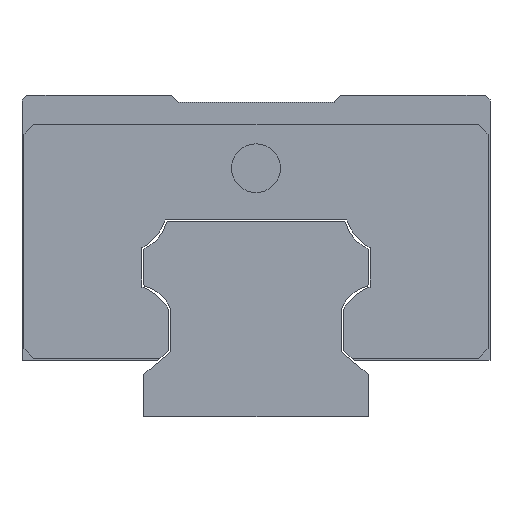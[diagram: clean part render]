
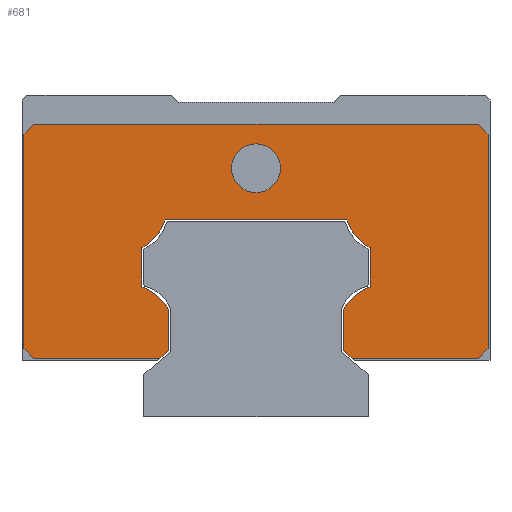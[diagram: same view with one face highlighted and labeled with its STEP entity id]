
A CAD part, left-side view. The second image highlights one B-rep face of the part: STEP entity #681.
In plain terms, the highlighted planar face has unit normal (-1, 0, 0).
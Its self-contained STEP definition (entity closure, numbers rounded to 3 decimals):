
#520=FACE_BOUND('',#963,.T.);
#521=FACE_BOUND('',#964,.T.);
#681=ADVANCED_FACE('',(#520,#521),#799,.F.);
#799=PLANE('',#2617);
#963=EDGE_LOOP('',(#1306));
#964=EDGE_LOOP('',(#1307,#1308,#1309,#1310,#1311,#1312,#1313,#1314,#1315,
#1316,#1317,#1318,#1319,#1320,#1321,#1322,#1323,#1324,#1325,#1326));
#1128=CIRCLE('',#2601,5.2);
#1129=CIRCLE('',#2604,5.2);
#1130=CIRCLE('',#2607,5.2);
#1131=CIRCLE('',#2610,5.2);
#1132=CIRCLE('',#2616,2.5);
#1306=ORIENTED_EDGE('',*,*,#2027,.F.);
#1307=ORIENTED_EDGE('',*,*,#2025,.F.);
#1308=ORIENTED_EDGE('',*,*,#2028,.T.);
#1309=ORIENTED_EDGE('',*,*,#2020,.F.);
#1310=ORIENTED_EDGE('',*,*,#2019,.F.);
#1311=ORIENTED_EDGE('',*,*,#2012,.F.);
#1312=ORIENTED_EDGE('',*,*,#2006,.F.);
#1313=ORIENTED_EDGE('',*,*,#2005,.F.);
#1314=ORIENTED_EDGE('',*,*,#1997,.F.);
#1315=ORIENTED_EDGE('',*,*,#1996,.F.);
#1316=ORIENTED_EDGE('',*,*,#1988,.F.);
#1317=ORIENTED_EDGE('',*,*,#1987,.F.);
#1318=ORIENTED_EDGE('',*,*,#1979,.F.);
#1319=ORIENTED_EDGE('',*,*,#1977,.F.);
#1320=ORIENTED_EDGE('',*,*,#1972,.F.);
#1321=ORIENTED_EDGE('',*,*,#1964,.F.);
#1322=ORIENTED_EDGE('',*,*,#2029,.T.);
#1323=ORIENTED_EDGE('',*,*,#1960,.F.);
#1324=ORIENTED_EDGE('',*,*,#2030,.T.);
#1325=ORIENTED_EDGE('',*,*,#1956,.F.);
#1326=ORIENTED_EDGE('',*,*,#2031,.T.);
#1764=VERTEX_POINT('',#3425);
#1765=VERTEX_POINT('',#3427);
#1768=VERTEX_POINT('',#3434);
#1769=VERTEX_POINT('',#3436);
#1772=VERTEX_POINT('',#3443);
#1773=VERTEX_POINT('',#3445);
#1774=VERTEX_POINT('',#3449);
#1780=VERTEX_POINT('',#3463);
#1785=VERTEX_POINT('',#3475);
#1786=VERTEX_POINT('',#3479);
#1791=VERTEX_POINT('',#3492);
#1792=VERTEX_POINT('',#3496);
#1797=VERTEX_POINT('',#3509);
#1798=VERTEX_POINT('',#3513);
#1803=VERTEX_POINT('',#3526);
#1804=VERTEX_POINT('',#3530);
#1808=VERTEX_POINT('',#3540);
#1814=VERTEX_POINT('',#3554);
#1818=VERTEX_POINT('',#3563);
#1819=VERTEX_POINT('',#3565);
#1820=VERTEX_POINT('',#3569);
#1956=EDGE_CURVE('',#1764,#1765,#2225,.T.);
#1960=EDGE_CURVE('',#1768,#1769,#2229,.T.);
#1964=EDGE_CURVE('',#1772,#1773,#2233,.T.);
#1972=EDGE_CURVE('',#1773,#1774,#2241,.T.);
#1977=EDGE_CURVE('',#1774,#1780,#2246,.T.);
#1979=EDGE_CURVE('',#1780,#1785,#1128,.T.);
#1987=EDGE_CURVE('',#1785,#1786,#2254,.T.);
#1988=EDGE_CURVE('',#1786,#1791,#1129,.T.);
#1996=EDGE_CURVE('',#1791,#1792,#2262,.T.);
#1997=EDGE_CURVE('',#1792,#1797,#1130,.T.);
#2005=EDGE_CURVE('',#1797,#1798,#2270,.T.);
#2006=EDGE_CURVE('',#1798,#1803,#1131,.T.);
#2012=EDGE_CURVE('',#1803,#1804,#2276,.T.);
#2019=EDGE_CURVE('',#1804,#1808,#2283,.T.);
#2020=EDGE_CURVE('',#1808,#1814,#2284,.T.);
#2025=EDGE_CURVE('',#1818,#1819,#2289,.T.);
#2027=EDGE_CURVE('',#1820,#1820,#1132,.T.);
#2028=EDGE_CURVE('',#1818,#1814,#2291,.T.);
#2029=EDGE_CURVE('',#1772,#1769,#2292,.T.);
#2030=EDGE_CURVE('',#1768,#1765,#2293,.T.);
#2031=EDGE_CURVE('',#1764,#1819,#2294,.T.);
#2225=LINE('',#3426,#2409);
#2229=LINE('',#3435,#2413);
#2233=LINE('',#3444,#2417);
#2241=LINE('',#3460,#2425);
#2246=LINE('',#3470,#2430);
#2254=LINE('',#3489,#2438);
#2262=LINE('',#3506,#2446);
#2270=LINE('',#3523,#2454);
#2276=LINE('',#3537,#2460);
#2283=LINE('',#3551,#2467);
#2284=LINE('',#3553,#2468);
#2289=LINE('',#3564,#2473);
#2291=LINE('',#3570,#2475);
#2292=LINE('',#3571,#2476);
#2293=LINE('',#3572,#2477);
#2294=LINE('',#3573,#2478);
#2409=VECTOR('',#2818,1.);
#2413=VECTOR('',#2824,1.);
#2417=VECTOR('',#2830,1.);
#2425=VECTOR('',#2840,1.);
#2430=VECTOR('',#2847,1.);
#2438=VECTOR('',#2863,1.);
#2446=VECTOR('',#2877,1.);
#2454=VECTOR('',#2891,1.);
#2460=VECTOR('',#2903,1.);
#2467=VECTOR('',#2912,1.);
#2468=VECTOR('',#2915,1.);
#2473=VECTOR('',#2922,1.);
#2475=VECTOR('',#2928,1.);
#2476=VECTOR('',#2929,1.);
#2477=VECTOR('',#2930,1.);
#2478=VECTOR('',#2931,1.);
#2601=AXIS2_PLACEMENT_3D('',#3474,#2852,#2853);
#2604=AXIS2_PLACEMENT_3D('',#3491,#2866,#2867);
#2607=AXIS2_PLACEMENT_3D('',#3508,#2880,#2881);
#2610=AXIS2_PLACEMENT_3D('',#3525,#2894,#2895);
#2616=AXIS2_PLACEMENT_3D('',#3568,#2926,#2927);
#2617=AXIS2_PLACEMENT_3D('',#3574,#2932,#2933);
#2818=DIRECTION('',(0.,-1.,0.));
#2824=DIRECTION('',(0.,0.,-1.));
#2830=DIRECTION('',(0.,1.,0.));
#2840=DIRECTION('',(0.,0.766,0.643));
#2847=DIRECTION('',(0.,0.,1.));
#2852=DIRECTION('',(1.,0.,0.));
#2853=DIRECTION('',(0.,1.,0.));
#2863=DIRECTION('',(0.,0.,1.));
#2866=DIRECTION('',(1.,0.,0.));
#2867=DIRECTION('',(0.,1.,0.));
#2877=DIRECTION('',(0.,1.,0.));
#2880=DIRECTION('',(1.,0.,0.));
#2881=DIRECTION('',(0.,-1.,0.));
#2891=DIRECTION('',(0.,0.,-1.));
#2894=DIRECTION('',(1.,0.,0.));
#2895=DIRECTION('',(0.,-1.,0.));
#2903=DIRECTION('',(0.,0.,-1.));
#2912=DIRECTION('',(0.,0.766,-0.643));
#2915=DIRECTION('',(0.,1.,0.));
#2922=DIRECTION('',(0.,0.,1.));
#2926=DIRECTION('',(-1.,0.,0.));
#2927=DIRECTION('',(0.,1.,0.));
#2928=DIRECTION('',(0.,-0.707,-0.707));
#2929=DIRECTION('',(0.,-0.707,0.707));
#2930=DIRECTION('',(0.,0.707,0.707));
#2931=DIRECTION('',(0.,0.707,-0.707));
#2932=DIRECTION('',(1.,0.,0.));
#2933=DIRECTION('',(0.,0.,-1.));
#3425=CARTESIAN_POINT('',(-28.6,22.8,30.));
#3426=CARTESIAN_POINT('',(-28.6,23.8,30.));
#3427=CARTESIAN_POINT('',(-28.6,-22.8,30.));
#3434=CARTESIAN_POINT('',(-28.6,-23.8,29.));
#3435=CARTESIAN_POINT('',(-28.6,-23.8,30.));
#3436=CARTESIAN_POINT('',(-28.6,-23.8,7.));
#3443=CARTESIAN_POINT('',(-28.6,-22.8,6.));
#3444=CARTESIAN_POINT('',(-28.6,-23.8,6.));
#3445=CARTESIAN_POINT('',(-28.6,-9.865,6.));
#3449=CARTESIAN_POINT('',(-28.6,-8.959,6.76));
#3460=CARTESIAN_POINT('',(-28.6,-9.865,6.));
#3463=CARTESIAN_POINT('',(-28.6,-8.959,11.018));
#3470=CARTESIAN_POINT('',(-28.6,-8.959,6.76));
#3474=CARTESIAN_POINT('',(-28.6,-13.468,8.428));
#3475=CARTESIAN_POINT('',(-28.6,-11.7,13.318));
#3479=CARTESIAN_POINT('',(-28.6,-11.7,17.332));
#3489=CARTESIAN_POINT('',(-28.6,-11.7,13.318));
#3491=CARTESIAN_POINT('',(-28.6,-14.213,21.884));
#3492=CARTESIAN_POINT('',(-28.6,-9.293,20.2));
#3496=CARTESIAN_POINT('',(-28.6,9.293,20.2));
#3506=CARTESIAN_POINT('',(-28.6,-9.293,20.2));
#3508=CARTESIAN_POINT('',(-28.6,14.213,21.884));
#3509=CARTESIAN_POINT('',(-28.6,11.7,17.332));
#3513=CARTESIAN_POINT('',(-28.6,11.7,13.318));
#3523=CARTESIAN_POINT('',(-28.6,11.7,17.332));
#3525=CARTESIAN_POINT('',(-28.6,13.468,8.428));
#3526=CARTESIAN_POINT('',(-28.6,8.959,11.018));
#3530=CARTESIAN_POINT('',(-28.6,8.959,6.76));
#3537=CARTESIAN_POINT('',(-28.6,8.959,11.018));
#3540=CARTESIAN_POINT('',(-28.6,9.865,6.));
#3551=CARTESIAN_POINT('',(-28.6,8.959,6.76));
#3553=CARTESIAN_POINT('',(-28.6,9.865,6.));
#3554=CARTESIAN_POINT('',(-28.6,22.8,6.));
#3563=CARTESIAN_POINT('',(-28.6,23.8,7.));
#3564=CARTESIAN_POINT('',(-28.6,23.8,6.));
#3565=CARTESIAN_POINT('',(-28.6,23.8,29.));
#3568=CARTESIAN_POINT('',(-28.6,0.,25.5));
#3569=CARTESIAN_POINT('',(-28.6,2.5,25.5));
#3570=CARTESIAN_POINT('',(-28.6,22.8,6.));
#3571=CARTESIAN_POINT('',(-28.6,-23.8,7.));
#3572=CARTESIAN_POINT('',(-28.6,-22.8,30.));
#3573=CARTESIAN_POINT('',(-28.6,23.8,29.));
#3574=CARTESIAN_POINT('',(-28.6,-13.468,8.428));
